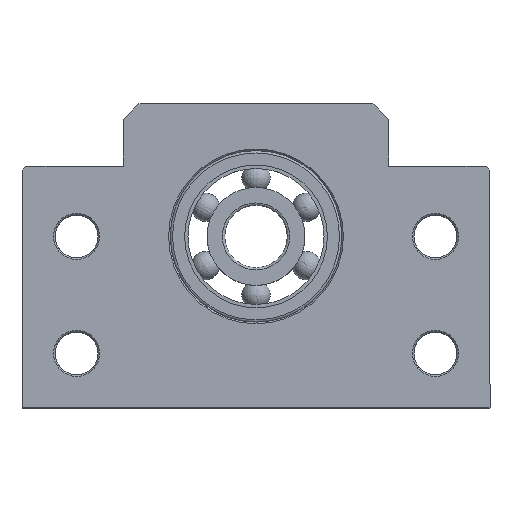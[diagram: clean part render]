
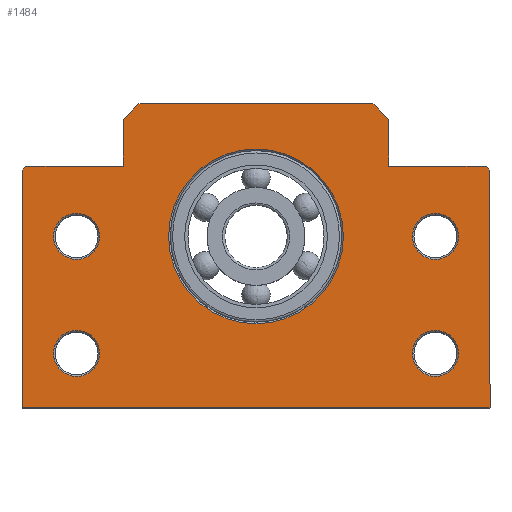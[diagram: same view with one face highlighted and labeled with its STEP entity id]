
A CAD part, top view. The second image highlights one B-rep face of the part: STEP entity #1484.
In plain terms, the highlighted planar face has unit normal (0, 0, 1).
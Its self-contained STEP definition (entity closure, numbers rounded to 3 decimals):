
#105=FACE_BOUND('',#259,.T.);
#106=FACE_BOUND('',#260,.T.);
#107=FACE_BOUND('',#261,.T.);
#108=FACE_BOUND('',#262,.T.);
#109=FACE_BOUND('',#263,.T.);
#143=PLANE('',#1634);
#176=FACE_OUTER_BOUND('',#258,.T.);
#258=EDGE_LOOP('',(#1091,#1092,#1093,#1094,#1095,#1096,#1097,#1098,#1099,
#1100,#1101,#1102));
#259=EDGE_LOOP('',(#1103));
#260=EDGE_LOOP('',(#1104));
#261=EDGE_LOOP('',(#1105));
#262=EDGE_LOOP('',(#1106));
#263=EDGE_LOOP('',(#1107));
#383=LINE('',#2583,#452);
#384=LINE('',#2585,#453);
#385=LINE('',#2587,#454);
#386=LINE('',#2589,#455);
#387=LINE('',#2591,#456);
#388=LINE('',#2593,#457);
#389=LINE('',#2595,#458);
#390=LINE('',#2597,#459);
#391=LINE('',#2599,#460);
#392=LINE('',#2601,#461);
#393=LINE('',#2603,#462);
#394=LINE('',#2604,#463);
#452=VECTOR('',#1901,10.);
#453=VECTOR('',#1902,10.);
#454=VECTOR('',#1903,10.);
#455=VECTOR('',#1904,10.);
#456=VECTOR('',#1905,10.);
#457=VECTOR('',#1906,10.);
#458=VECTOR('',#1907,10.);
#459=VECTOR('',#1908,10.);
#460=VECTOR('',#1909,10.);
#461=VECTOR('',#1910,10.);
#462=VECTOR('',#1911,10.);
#463=VECTOR('',#1912,10.);
#510=CIRCLE('',#1633,11.2);
#511=CIRCLE('',#1635,2.95);
#512=CIRCLE('',#1636,2.95);
#513=CIRCLE('',#1637,2.95);
#514=CIRCLE('',#1638,2.95);
#663=VERTEX_POINT('',#2577);
#664=VERTEX_POINT('',#2581);
#665=VERTEX_POINT('',#2582);
#666=VERTEX_POINT('',#2584);
#667=VERTEX_POINT('',#2586);
#668=VERTEX_POINT('',#2588);
#669=VERTEX_POINT('',#2590);
#670=VERTEX_POINT('',#2592);
#671=VERTEX_POINT('',#2594);
#672=VERTEX_POINT('',#2596);
#673=VERTEX_POINT('',#2598);
#674=VERTEX_POINT('',#2600);
#675=VERTEX_POINT('',#2602);
#676=VERTEX_POINT('',#2605);
#677=VERTEX_POINT('',#2607);
#678=VERTEX_POINT('',#2609);
#679=VERTEX_POINT('',#2611);
#848=EDGE_CURVE('',#663,#663,#510,.T.);
#850=EDGE_CURVE('',#664,#665,#383,.T.);
#851=EDGE_CURVE('',#664,#666,#384,.T.);
#852=EDGE_CURVE('',#666,#667,#385,.T.);
#853=EDGE_CURVE('',#667,#668,#386,.T.);
#854=EDGE_CURVE('',#669,#668,#387,.T.);
#855=EDGE_CURVE('',#669,#670,#388,.T.);
#856=EDGE_CURVE('',#670,#671,#389,.T.);
#857=EDGE_CURVE('',#672,#671,#390,.T.);
#858=EDGE_CURVE('',#672,#673,#391,.T.);
#859=EDGE_CURVE('',#674,#673,#392,.T.);
#860=EDGE_CURVE('',#674,#675,#393,.T.);
#861=EDGE_CURVE('',#675,#665,#394,.T.);
#862=EDGE_CURVE('',#676,#676,#511,.T.);
#863=EDGE_CURVE('',#677,#677,#512,.T.);
#864=EDGE_CURVE('',#678,#678,#513,.T.);
#865=EDGE_CURVE('',#679,#679,#514,.T.);
#1091=ORIENTED_EDGE('',*,*,#850,.F.);
#1092=ORIENTED_EDGE('',*,*,#851,.T.);
#1093=ORIENTED_EDGE('',*,*,#852,.T.);
#1094=ORIENTED_EDGE('',*,*,#853,.T.);
#1095=ORIENTED_EDGE('',*,*,#854,.F.);
#1096=ORIENTED_EDGE('',*,*,#855,.T.);
#1097=ORIENTED_EDGE('',*,*,#856,.T.);
#1098=ORIENTED_EDGE('',*,*,#857,.F.);
#1099=ORIENTED_EDGE('',*,*,#858,.T.);
#1100=ORIENTED_EDGE('',*,*,#859,.F.);
#1101=ORIENTED_EDGE('',*,*,#860,.T.);
#1102=ORIENTED_EDGE('',*,*,#861,.T.);
#1103=ORIENTED_EDGE('',*,*,#862,.F.);
#1104=ORIENTED_EDGE('',*,*,#863,.F.);
#1105=ORIENTED_EDGE('',*,*,#864,.F.);
#1106=ORIENTED_EDGE('',*,*,#865,.F.);
#1107=ORIENTED_EDGE('',*,*,#848,.F.);
#1484=ADVANCED_FACE('',(#176,#105,#106,#107,#108,#109),#143,.T.);
#1633=AXIS2_PLACEMENT_3D('',#2578,#1896,#1897);
#1634=AXIS2_PLACEMENT_3D('',#2580,#1899,#1900);
#1635=AXIS2_PLACEMENT_3D('',#2606,#1913,#1914);
#1636=AXIS2_PLACEMENT_3D('',#2608,#1915,#1916);
#1637=AXIS2_PLACEMENT_3D('',#2610,#1917,#1918);
#1638=AXIS2_PLACEMENT_3D('',#2612,#1919,#1920);
#1896=DIRECTION('center_axis',(0.,0.,1.));
#1897=DIRECTION('ref_axis',(-1.,0.,0.));
#1899=DIRECTION('center_axis',(0.,0.,1.));
#1900=DIRECTION('ref_axis',(1.,0.,0.));
#1901=DIRECTION('',(0.707,0.707,0.));
#1902=DIRECTION('',(0.,-1.,0.));
#1903=DIRECTION('',(1.,0.,0.));
#1904=DIRECTION('',(0.,1.,0.));
#1905=DIRECTION('',(0.707,-0.707,0.));
#1906=DIRECTION('',(-1.,0.,0.));
#1907=DIRECTION('',(0.,1.,0.));
#1908=DIRECTION('',(0.707,-0.707,0.));
#1909=DIRECTION('',(-1.,0.,0.));
#1910=DIRECTION('',(0.707,0.707,0.));
#1911=DIRECTION('',(0.,-1.,0.));
#1912=DIRECTION('',(-1.,0.,0.));
#1913=DIRECTION('center_axis',(0.,0.,1.));
#1914=DIRECTION('ref_axis',(-1.,0.,0.));
#1915=DIRECTION('center_axis',(0.,0.,1.));
#1916=DIRECTION('ref_axis',(-1.,0.,0.));
#1917=DIRECTION('center_axis',(0.,0.,1.));
#1918=DIRECTION('ref_axis',(-1.,0.,0.));
#1919=DIRECTION('center_axis',(0.,0.,1.));
#1920=DIRECTION('ref_axis',(-1.,0.,0.));
#2577=CARTESIAN_POINT('',(11.2,22.,20.));
#2578=CARTESIAN_POINT('Origin',(0.,22.,20.));
#2580=CARTESIAN_POINT('Origin',(14.246,18.746,20.));
#2581=CARTESIAN_POINT('',(-30.,30.5,20.));
#2582=CARTESIAN_POINT('',(-29.5,31.,20.));
#2583=CARTESIAN_POINT('',(-21.752,38.748,20.));
#2584=CARTESIAN_POINT('',(-30.,0.,20.));
#2585=CARTESIAN_POINT('',(-30.,31.,20.));
#2586=CARTESIAN_POINT('',(30.,0.,20.));
#2587=CARTESIAN_POINT('',(-30.,0.,20.));
#2588=CARTESIAN_POINT('',(30.,30.5,20.));
#2589=CARTESIAN_POINT('',(30.,0.,20.));
#2590=CARTESIAN_POINT('',(29.5,31.,20.));
#2591=CARTESIAN_POINT('',(28.875,31.625,20.));
#2592=CARTESIAN_POINT('',(17.,31.,20.));
#2593=CARTESIAN_POINT('',(30.,31.,20.));
#2594=CARTESIAN_POINT('',(17.,37.,20.));
#2595=CARTESIAN_POINT('',(17.,31.,20.));
#2596=CARTESIAN_POINT('',(15.,39.,20.));
#2597=CARTESIAN_POINT('',(20.375,33.625,20.));
#2598=CARTESIAN_POINT('',(-15.,39.,20.));
#2599=CARTESIAN_POINT('',(17.,39.,20.));
#2600=CARTESIAN_POINT('',(-17.,37.,20.));
#2601=CARTESIAN_POINT('',(-13.252,40.748,20.));
#2602=CARTESIAN_POINT('',(-17.,31.,20.));
#2603=CARTESIAN_POINT('',(-17.,39.,20.));
#2604=CARTESIAN_POINT('',(-17.,31.,20.));
#2605=CARTESIAN_POINT('',(25.95,7.,20.));
#2606=CARTESIAN_POINT('Origin',(23.,7.,20.));
#2607=CARTESIAN_POINT('',(-20.05,7.,20.));
#2608=CARTESIAN_POINT('Origin',(-23.,7.,20.));
#2609=CARTESIAN_POINT('',(-20.05,22.,20.));
#2610=CARTESIAN_POINT('Origin',(-23.,22.,20.));
#2611=CARTESIAN_POINT('',(25.95,22.,20.));
#2612=CARTESIAN_POINT('Origin',(23.,22.,20.));
